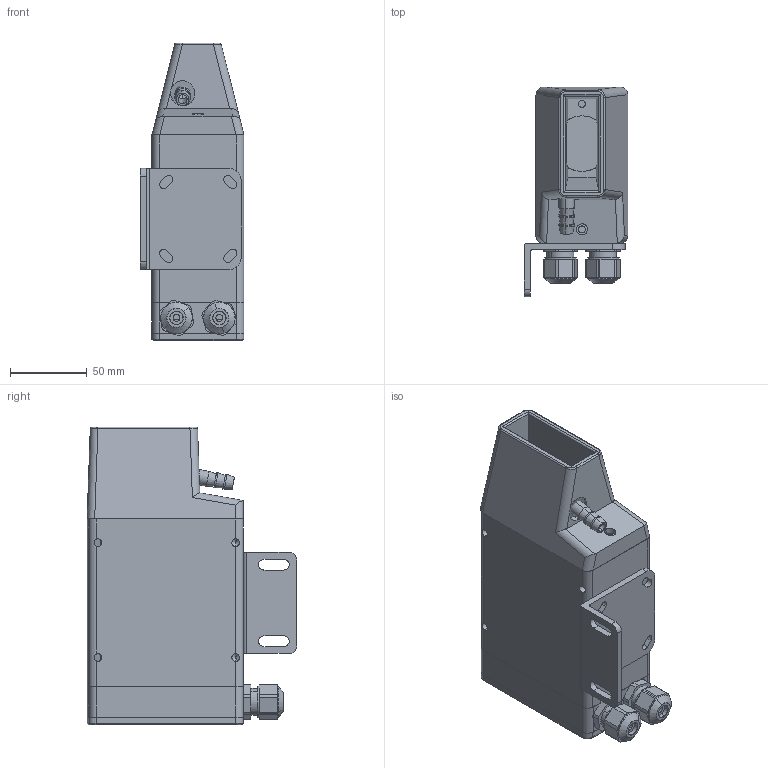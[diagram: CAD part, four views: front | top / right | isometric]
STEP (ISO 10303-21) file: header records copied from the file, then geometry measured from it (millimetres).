
FILE_DESCRIPTION (( 'STEP AP214' ), '1' );
FILE_NAME ('V series LB STEP.STEP', '2013-05-29T07:55:45', ( '' ), ( '' ), 'SwSTEP 2.0', 'SolidWorks 2011', '' );
FILE_SCHEMA (( 'AUTOMOTIVE_DESIGN' ));
Length unit declared in the file: millimetre
Products named in the file (13): Equerre de fix; Platen MD_??; Housing Z MD; Raccord eau A15023; AGRO-EX1571.09.060-4.5_Default; AGRO-EX1571.09.060-4.5_Block9_page4_14_model1_comp1_EX1571.09.085.01; AGRO-EX1571.09.060-4.5_Block9_page4_14_model1_comp2_1571.09.02; AGRO-EX1571.09.060-4.5_Block9_page4_14_model1_comp3_1000.17.060.03; ref delta; ensemble joue; Tubus V-Y; A13506_??; V series LB STEP
Assembly tree (13 placements, depth 3):
  V series LB STEP
    Equerre de fix
    AGRO-EX1571.09.060-4.5_Default  x2
      AGRO-EX1571.09.060-4.5_Block9_page4_14_model1_comp2_1571.09.02
      AGRO-EX1571.09.060-4.5_Block9_page4_14_model1_comp1_EX1571.09.085.01
      AGRO-EX1571.09.060-4.5_Block9_page4_14_model1_comp3_1000.17.060.03
    ref delta
    ensemble joue
      Tubus V-Y
    A13506_??
    Platen MD_??
    Housing Z MD
    Raccord eau A15023
Bounding box: 67.79 x 137 x 194.5 mm (x, y, z)
Volume: 939482.8 mm3; surface area: 149813 mm2
Topology: 13 solids, 16 shells, 1238 faces, 3153 edges, 2048 vertices
Faces by surface type: plane 741, cylinder 253, bspline 142, cone 84, torus 18
Entity records: 39351 total; most frequent: CARTESIAN_POINT 10664, ORIENTED_EDGE 5860, DIRECTION 5124, EDGE_CURVE 2930, LINE 2120, VECTOR 2120, VERTEX_POINT 1924, AXIS2_PLACEMENT_3D 1502
